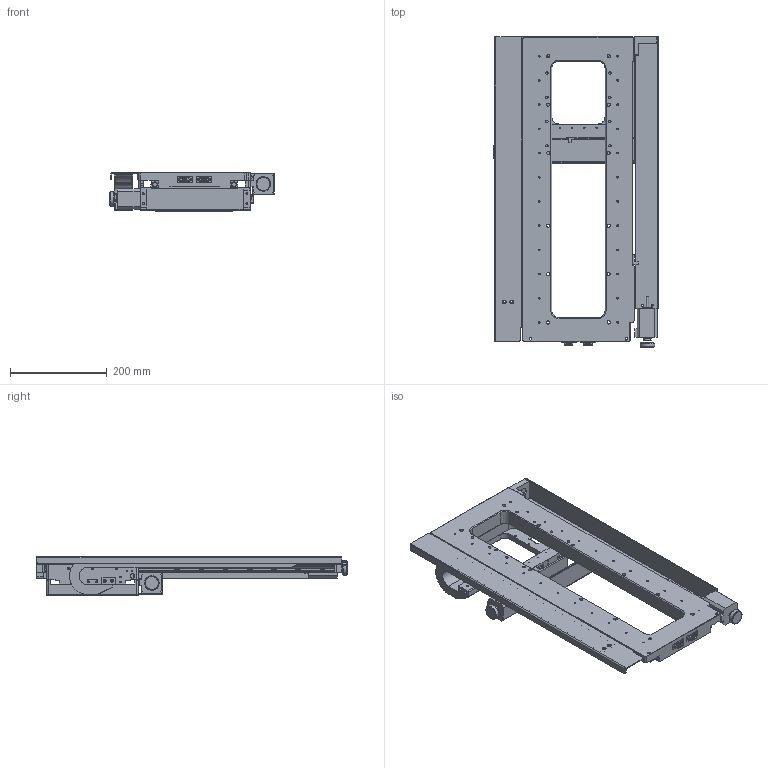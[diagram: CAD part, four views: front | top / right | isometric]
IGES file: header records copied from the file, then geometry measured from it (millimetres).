
Start section: SolidWorks IGES file using analytic representation for surfaces
Global section: file name: 5HD:\工作\工作目录\GJ-BZ-XY0000-G1-M0AA-R0 装配体 X400Y80\三维\4\GJ-BZ-XY0000-G1-M0AA-R0 装配体 X400Y80.IGS; native system: SolidWorks 2025; preprocessor: SolidWorks 2025; author: jixinggaozhao; date: 260415.115101; units: millimetre
Bounding box: 340 x 641 x 80 mm (x, y, z)
Surface area: 867548.3 mm2 (no closed solid volume)
Topology: 0 solids, 0 shells, 758 faces, 12340 edges, 12088 vertices
Faces by surface type: bspline 404, revolution 354
